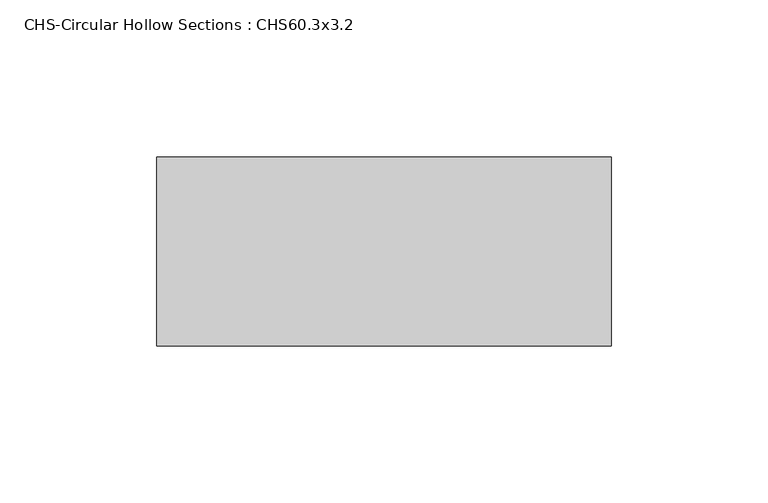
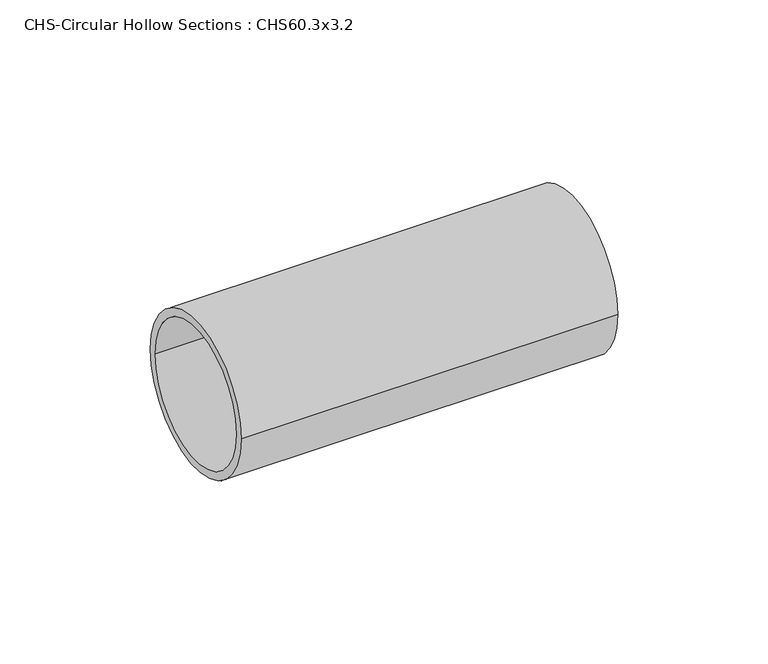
"""IFC4 building model written with IfcOpenShell, lengths in millimetres: beam geometry, CHS-Circular Hollow Sections : CHS60.3x3.2."""

from ifc_helpers import new_model, si_unit, point, frame, origin, origin_2d, place, context, project, spatial, circle_curve, trimmed, segment, composite_curve, outline, extrude, source, transform, mapped, element, save


def chs_circular_hollow_sections_chs60_3x3_2_c089d770(model_context):
    return source(origin(), model_context, "Body", "SweptSolid", [
        extrude(outline(composite_curve([segment(trimmed(circle_curve(origin_2d(), 30.15), [point((30.15, 0.0))], [point((-30.15, 0.0))], False, "CARTESIAN"), True, "CONTINUOUS"), segment(trimmed(circle_curve(origin_2d(), 30.15), [point((-30.15, 0.0))], [point((30.15, 0.0))], False, "CARTESIAN"), True, "CONTINUOUS")], self_intersect=False), holes=[composite_curve([segment(trimmed(circle_curve(origin_2d(), 26.95), [point((-26.95, 0.0))], [point((26.95, 0.0))], True, "CARTESIAN"), True, "CONTINUOUS"), segment(trimmed(circle_curve(origin_2d(), 26.95), [point((26.95, 0.0))], [point((-26.95, 0.0))], True, "CARTESIAN"), True, "CONTINUOUS")], self_intersect=False)]), frame((-72.3, 0.0, 0.0), z_axis=(1.0, 0.0, 0.0), x_axis=(0.0, 1.0, 0.0)), (0.0, 0.0, 1.0), 144.6),
    ])


if __name__ == "__main__":
    model = new_model("IFC4")
    model_context = context("Model", 3, world=origin())
    ifc_project = project(units=[si_unit("LENGTHUNIT", "METRE", prefix="MILLI")], contexts=[model_context])
    site = spatial("IfcSite", under=ifc_project)
    building = spatial("IfcBuilding", under=site)
    placement = place(None, origin())
    chs_circular_hollow_sections_chs60_3x3_2_shape = chs_circular_hollow_sections_chs60_3x3_2_c089d770(model_context)
    element("IfcBeam", 1, ObjectType="CHS-Circular Hollow Sections : CHS60.3x3.2", at=placement, inside=building, context=model_context, shape_type="MappedRepresentation", body=[
        mapped(chs_circular_hollow_sections_chs60_3x3_2_shape, transform((0.0, 0.0, 0.0), x_axis=(1.0, 0.0, 0.0), y_axis=(0.0, 1.0, 0.0), z_axis=(0.0, 0.0, 1.0))),
    ])
    save(model, "model.ifc")
